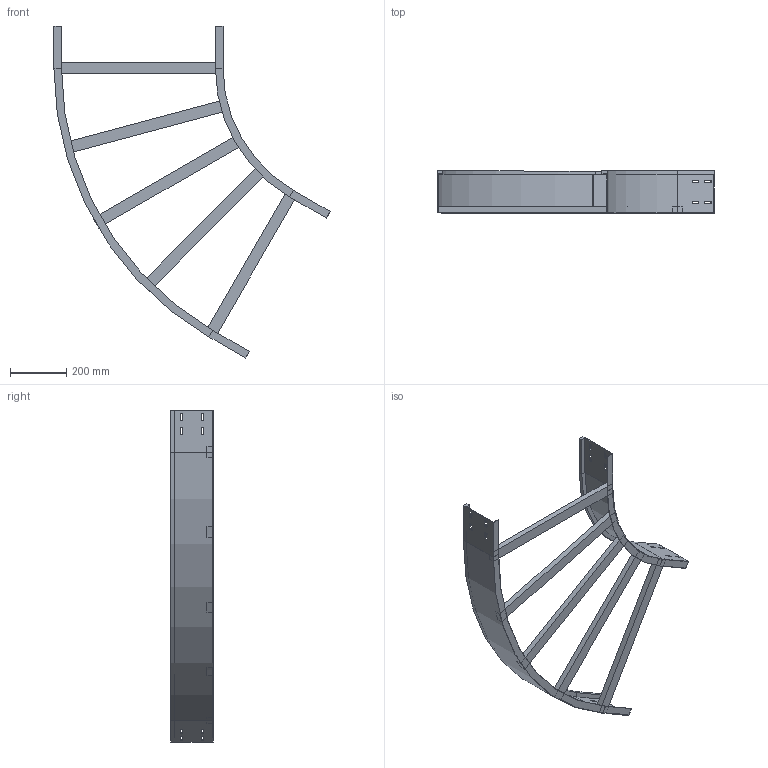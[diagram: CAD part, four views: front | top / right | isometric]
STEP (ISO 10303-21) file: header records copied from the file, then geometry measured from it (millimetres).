
FILE_DESCRIPTION (( 'STEP AP214' ), '1' );
FILE_NAME ('13J5F600.step', '2025-02-21T16:24:50', ( '' ), ( '' ), 'SwSTEP 2.0', 'SolidWorks 2023', '' );
FILE_SCHEMA (( 'AUTOMOTIVE_DESIGN' ));
Length unit declared in the file: millimetre
Products named in the file (4): LONGH.INTERNO 60°_H150_R500; LONGH.ESTERNO 60°_H150_R500+600; 13J5F600; TRAVERSINO_600
Assembly tree (7 placements, depth 2):
  13J5F600
    LONGH.INTERNO 60°_H150_R500
    LONGH.ESTERNO 60°_H150_R500+600
    TRAVERSINO_600  x5
Bounding box: 979.9 x 150 x 1177.63 mm (x, y, z)
Volume: 3639929.7 mm3; surface area: 1244173.2 mm2
Topology: 7 solids, 7 shells, 146 faces, 364 edges, 232 vertices
Faces by surface type: plane 138, cylinder 8
Entity records: 3837 total; most frequent: CARTESIAN_POINT 648, ORIENTED_EDGE 632, DIRECTION 596, EDGE_CURVE 316, LINE 300, VECTOR 300, VERTEX_POINT 200, EDGE_LOOP 154
